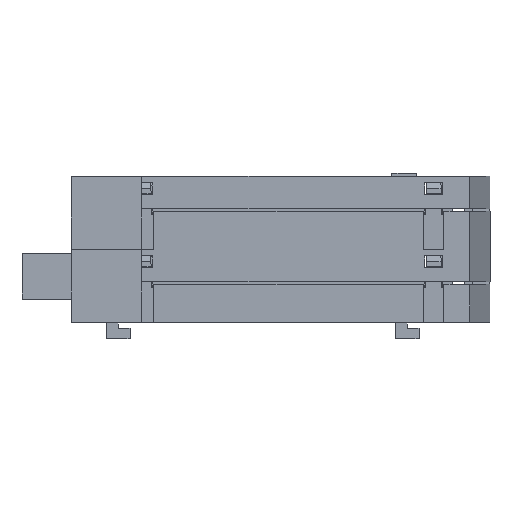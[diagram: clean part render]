
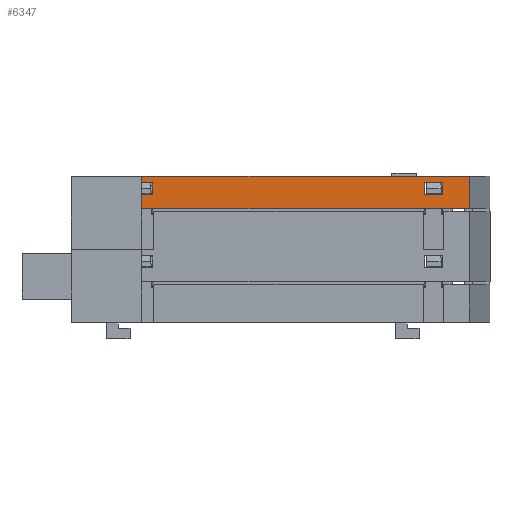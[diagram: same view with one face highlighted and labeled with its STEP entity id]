
A CAD part, left-side view. The second image highlights one B-rep face of the part: STEP entity #6347.
In plain terms, the highlighted planar face has unit normal (-1, 0, 0).
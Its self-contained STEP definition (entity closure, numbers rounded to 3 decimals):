
#59 = LINE ( 'NONE', #48482, #5011 ) ;
#170 = CARTESIAN_POINT ( 'NONE',  ( -1.9, 53.15, 20.9 ) ) ;
#2184 = ORIENTED_EDGE ( 'NONE', *, *, #43639, .T. ) ;
#2977 = VECTOR ( 'NONE', #44851, 1000. ) ;
#4059 = CARTESIAN_POINT ( 'NONE',  ( -1.9, 0.35, 20.9 ) ) ;
#4992 = DIRECTION ( 'NONE',  ( 0., -1., 0. ) ) ;
#5011 = VECTOR ( 'NONE', #16575, 1000. ) ;
#6061 = EDGE_CURVE ( 'NONE', #13735, #12110, #27579, .T. ) ;
#6347 = ADVANCED_FACE ( 'NONE', ( #23319, #34686, #39424 ), #15192, .F. ) ;
#6522 = VECTOR ( 'NONE', #33629, 1000. ) ;
#6667 = CARTESIAN_POINT ( 'NONE',  ( -1.9, 60.995, 22. ) ) ;
#8375 = LINE ( 'NONE', #24835, #16770 ) ;
#8462 = LINE ( 'NONE', #24401, #32658 ) ;
#8845 = EDGE_LOOP ( 'NONE', ( #46911, #32799, #9563, #36468 ) ) ;
#9563 = ORIENTED_EDGE ( 'NONE', *, *, #12334, .T. ) ;
#10143 = VERTEX_POINT ( 'NONE', #40922 ) ;
#10314 = VECTOR ( 'NONE', #19223, 1000. ) ;
#10745 = CARTESIAN_POINT ( 'NONE',  ( -1.9, 60.995, 16.5 ) ) ;
#11383 = VECTOR ( 'NONE', #14631, 1000. ) ;
#11650 = ORIENTED_EDGE ( 'NONE', *, *, #51965, .F. ) ;
#12029 = VECTOR ( 'NONE', #42016, 1000. ) ;
#12110 = VERTEX_POINT ( 'NONE', #22107 ) ;
#12334 = EDGE_CURVE ( 'NONE', #27014, #25642, #29403, .T. ) ;
#12576 = CARTESIAN_POINT ( 'NONE',  ( -1.9, 50.05, 18.9 ) ) ;
#12617 = EDGE_CURVE ( 'NONE', #37088, #13735, #29354, .T. ) ;
#13174 = VERTEX_POINT ( 'NONE', #12576 ) ;
#13735 = VERTEX_POINT ( 'NONE', #31121 ) ;
#13827 = CARTESIAN_POINT ( 'NONE',  ( -1.9, 60.995, 22. ) ) ;
#14631 = DIRECTION ( 'NONE',  ( 0., 0., 1. ) ) ;
#15192 = PLANE ( 'NONE',  #45622 ) ;
#15459 = VECTOR ( 'NONE', #4992, 1000. ) ;
#15601 = CARTESIAN_POINT ( 'NONE',  ( -1.9, 3.45, 18.9 ) ) ;
#15751 = VERTEX_POINT ( 'NONE', #22448 ) ;
#16044 = ORIENTED_EDGE ( 'NONE', *, *, #36002, .T. ) ;
#16575 = DIRECTION ( 'NONE',  ( 0., 0., -1. ) ) ;
#16770 = VECTOR ( 'NONE', #48626, 1000. ) ;
#17739 = LINE ( 'NONE', #30584, #48576 ) ;
#17946 = ORIENTED_EDGE ( 'NONE', *, *, #36133, .T. ) ;
#19223 = DIRECTION ( 'NONE',  ( 0., 1., 0. ) ) ;
#20436 = CARTESIAN_POINT ( 'NONE',  ( -1.9, 53.15, 18.9 ) ) ;
#20519 = VERTEX_POINT ( 'NONE', #21585 ) ;
#21031 = VERTEX_POINT ( 'NONE', #42247 ) ;
#21585 = CARTESIAN_POINT ( 'NONE',  ( -1.9, -4.255, 22. ) ) ;
#22107 = CARTESIAN_POINT ( 'NONE',  ( -1.9, 3.45, 18.9 ) ) ;
#22448 = CARTESIAN_POINT ( 'NONE',  ( -1.9, -4.255, 16.5 ) ) ;
#22990 = VECTOR ( 'NONE', #33074, 1000. ) ;
#23079 = ORIENTED_EDGE ( 'NONE', *, *, #12617, .T. ) ;
#23319 = FACE_BOUND ( 'NONE', #8845, .T. ) ;
#23723 = ORIENTED_EDGE ( 'NONE', *, *, #42148, .F. ) ;
#24401 = CARTESIAN_POINT ( 'NONE',  ( -1.9, 50.05, 18.9 ) ) ;
#24835 = CARTESIAN_POINT ( 'NONE',  ( -1.9, 60.995, 22. ) ) ;
#24899 = LINE ( 'NONE', #20436, #22990 ) ;
#24931 = LINE ( 'NONE', #41043, #6522 ) ;
#25375 = DIRECTION ( 'NONE',  ( 0., 0., -1. ) ) ;
#25642 = VERTEX_POINT ( 'NONE', #39453 ) ;
#25881 = CARTESIAN_POINT ( 'NONE',  ( -1.9, 60.995, 22. ) ) ;
#25908 = LINE ( 'NONE', #15601, #11383 ) ;
#27014 = VERTEX_POINT ( 'NONE', #170 ) ;
#27579 = LINE ( 'NONE', #43728, #10314 ) ;
#28586 = CARTESIAN_POINT ( 'NONE',  ( -1.9, 0.35, 18.9 ) ) ;
#29238 = EDGE_CURVE ( 'NONE', #47178, #15751, #24931, .T. ) ;
#29354 = LINE ( 'NONE', #28586, #40743 ) ;
#29403 = LINE ( 'NONE', #45012, #15459 ) ;
#30047 = EDGE_CURVE ( 'NONE', #13174, #21031, #8462, .T. ) ;
#30584 = CARTESIAN_POINT ( 'NONE',  ( -1.9, 50.05, 18.9 ) ) ;
#31121 = CARTESIAN_POINT ( 'NONE',  ( -1.9, 0.35, 18.9 ) ) ;
#32658 = VECTOR ( 'NONE', #40489, 1000. ) ;
#32799 = ORIENTED_EDGE ( 'NONE', *, *, #45259, .T. ) ;
#33074 = DIRECTION ( 'NONE',  ( 0., 0., 1. ) ) ;
#33629 = DIRECTION ( 'NONE',  ( 0., -1., 0. ) ) ;
#33831 = LINE ( 'NONE', #25881, #12029 ) ;
#34686 = FACE_BOUND ( 'NONE', #35475, .T. ) ;
#35404 = VERTEX_POINT ( 'NONE', #6667 ) ;
#35475 = EDGE_LOOP ( 'NONE', ( #23079, #43644, #16044, #17946 ) ) ;
#35932 = LINE ( 'NONE', #4059, #2977 ) ;
#35941 = CARTESIAN_POINT ( 'NONE',  ( -1.9, 0.35, 20.9 ) ) ;
#36002 = EDGE_CURVE ( 'NONE', #12110, #10143, #25908, .T. ) ;
#36133 = EDGE_CURVE ( 'NONE', #10143, #37088, #35932, .T. ) ;
#36468 = ORIENTED_EDGE ( 'NONE', *, *, #38132, .T. ) ;
#37088 = VERTEX_POINT ( 'NONE', #35941 ) ;
#37543 = DIRECTION ( 'NONE',  ( 1., 0., 0. ) ) ;
#38132 = EDGE_CURVE ( 'NONE', #25642, #13174, #17739, .T. ) ;
#39183 = EDGE_LOOP ( 'NONE', ( #44018, #23723, #11650, #2184 ) ) ;
#39424 = FACE_OUTER_BOUND ( 'NONE', #39183, .T. ) ;
#39453 = CARTESIAN_POINT ( 'NONE',  ( -1.9, 50.05, 20.9 ) ) ;
#40489 = DIRECTION ( 'NONE',  ( 0., 1., 0. ) ) ;
#40743 = VECTOR ( 'NONE', #25375, 1000. ) ;
#40922 = CARTESIAN_POINT ( 'NONE',  ( -1.9, 3.45, 20.9 ) ) ;
#41043 = CARTESIAN_POINT ( 'NONE',  ( -1.9, 60.995, 16.5 ) ) ;
#42016 = DIRECTION ( 'NONE',  ( 0., 0., -1. ) ) ;
#42148 = EDGE_CURVE ( 'NONE', #20519, #15751, #59, .T. ) ;
#42247 = CARTESIAN_POINT ( 'NONE',  ( -1.9, 53.15, 18.9 ) ) ;
#43639 = EDGE_CURVE ( 'NONE', #35404, #47178, #33831, .T. ) ;
#43644 = ORIENTED_EDGE ( 'NONE', *, *, #6061, .T. ) ;
#43728 = CARTESIAN_POINT ( 'NONE',  ( -1.9, 0.35, 18.9 ) ) ;
#44018 = ORIENTED_EDGE ( 'NONE', *, *, #29238, .T. ) ;
#44851 = DIRECTION ( 'NONE',  ( 0., -1., 0. ) ) ;
#45012 = CARTESIAN_POINT ( 'NONE',  ( -1.9, 50.05, 20.9 ) ) ;
#45259 = EDGE_CURVE ( 'NONE', #21031, #27014, #24899, .T. ) ;
#45622 = AXIS2_PLACEMENT_3D ( 'NONE', #13827, #37543, #45979 ) ;
#45928 = DIRECTION ( 'NONE',  ( 0., 0., -1. ) ) ;
#45979 = DIRECTION ( 'NONE',  ( 0., 1., 0. ) ) ;
#46911 = ORIENTED_EDGE ( 'NONE', *, *, #30047, .T. ) ;
#47178 = VERTEX_POINT ( 'NONE', #10745 ) ;
#48482 = CARTESIAN_POINT ( 'NONE',  ( -1.9, -4.255, 22. ) ) ;
#48576 = VECTOR ( 'NONE', #45928, 1000. ) ;
#48626 = DIRECTION ( 'NONE',  ( 0., -1., 0. ) ) ;
#51965 = EDGE_CURVE ( 'NONE', #35404, #20519, #8375, .T. ) ;
